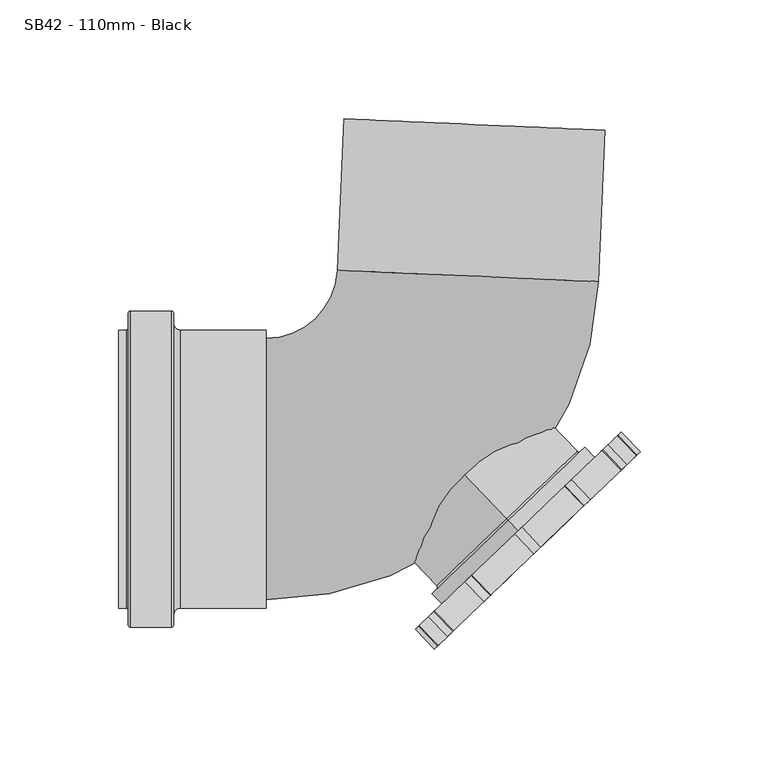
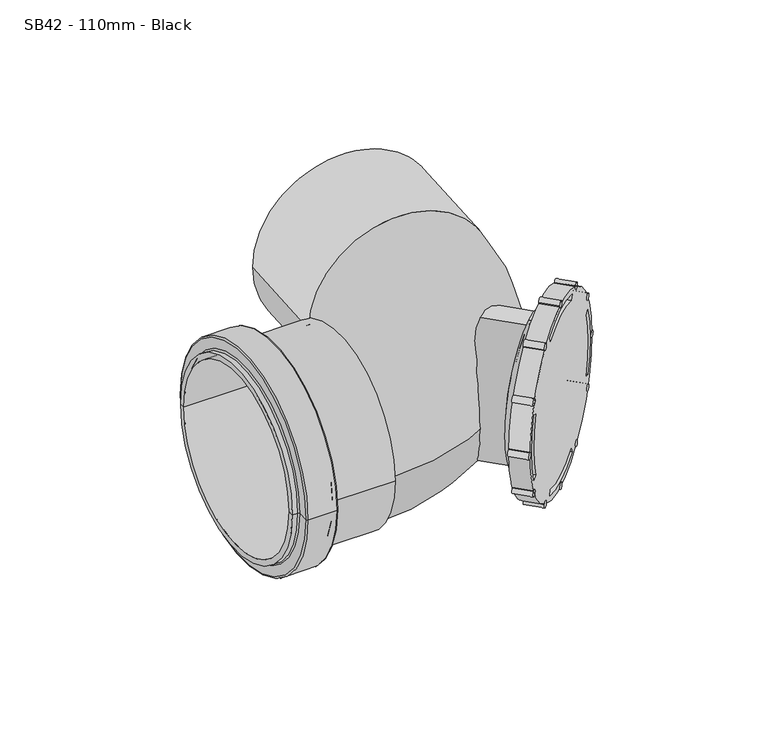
"""IFC4 building model written with IfcOpenShell, lengths in millimetres: pipe fitting geometry, MarleyPlumbingAndDrainage_PipeFitting_RearAccessBend87-5 : SB42 - 110mm - Black."""

from ifc_helpers import new_model, si_unit, point, frame, frame_2d, origin, place, context, project, spatial, polyline, circle_curve, ellipse_curve, trimmed, segment, composite_curve, outline, extrude, source, transform, mapped, element, save
from ifc_brep_helpers import plane_surface, cylinder_surface, revolved_surface, advanced_brep


def sb42_110mm_black_ad8acbd5(model_context):
    return source(origin(), model_context, "Body", "SolidModel", [
        extrude(outline(composite_curve([segment(trimmed(circle_curve(frame_2d((0.0, -2.0)), 2.0), [point((0.0, -4.0))], [point((0.0, 0.0))], False, "CARTESIAN"), True, "CONTINUOUS"), segment(trimmed(circle_curve(frame_2d((0.0, -2.0)), 2.0), [point((0.0, 0.0))], [point((0.0, -4.0))], False, "CARTESIAN"), True, "CONTINUOUS")], self_intersect=False)), frame((68.1693934, 1.235796, 27.2679492), z_axis=(-0.6915130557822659, 0.722363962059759, 0.0), x_axis=(0.6255855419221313, 0.5988678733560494, 0.4999999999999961)), (0.0, 0.0, 1.0), 11.5),
        extrude(outline(composite_curve([segment(trimmed(circle_curve(frame_2d((0.0, -2.0)), 2.0), [point((0.0, -4.0))], [point((0.0, 0.0))], False, "CARTESIAN"), True, "CONTINUOUS"), segment(trimmed(circle_curve(frame_2d((0.0, -2.0)), 2.0), [point((0.0, 0.0))], [point((0.0, -4.0))], False, "CARTESIAN"), True, "CONTINUOUS")], self_intersect=False)), frame((73.0601778, 5.9177035, -2.0), z_axis=(-0.6915130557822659, 0.7223639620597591, 0.0), x_axis=(0.7223639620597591, 0.6915130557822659, 0.0)), (0.0, 0.0, 1.0), 11.5),
        extrude(outline(composite_curve([segment(trimmed(circle_curve(frame_2d((0.0, -2.0)), 2.0), [point((0.0, -4.0))], [point((0.0, 0.0))], False, "CARTESIAN"), True, "CONTINUOUS"), segment(trimmed(circle_curve(frame_2d((0.0, -2.0)), 2.0), [point((0.0, 0.0))], [point((0.0, -4.0))], False, "CARTESIAN"), True, "CONTINUOUS")], self_intersect=False)), frame((66.7246655, -0.1472301, -30.7320508), z_axis=(-0.6915130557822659, 0.7223639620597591, 0.0), x_axis=(0.6255855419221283, 0.5988678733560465, -0.5000000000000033)), (0.0, 0.0, 1.0), 11.5),
        extrude(outline(composite_curve([segment(trimmed(circle_curve(frame_2d((0.0, -2.0)), 2.0), [point((0.0, -4.0))], [point((0.0, 0.0))], False, "CARTESIAN"), True, "CONTINUOUS"), segment(trimmed(circle_curve(frame_2d((0.0, -2.0)), 2.0), [point((0.0, 0.0))], [point((0.0, -4.0))], False, "CARTESIAN"), True, "CONTINUOUS")], self_intersect=False)), frame((50.8604519, -15.3339109, -51.2294734), z_axis=(-0.6915130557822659, 0.7223639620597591, 0.0), x_axis=(0.36118198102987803, 0.3457565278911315, -0.8660254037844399)), (0.0, 0.0, 1.0), 11.5),
        extrude(outline(composite_curve([segment(trimmed(circle_curve(frame_2d((0.0, -2.0)), 2.0), [point((0.0, -4.0000001))], [point((0.0, 0.0))], False, "CARTESIAN"), True, "CONTINUOUS"), segment(trimmed(circle_curve(frame_2d((0.0, -2.0)), 2.0), [point((0.0, 0.0))], [point((0.0, -4.0000001))], False, "CARTESIAN"), True, "CONTINUOUS")], self_intersect=False)), frame((29.7183401, -35.5730799, -58.0), z_axis=(-0.6915130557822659, 0.7223639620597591, 0.0), x_axis=(0.0, 0.0, -1.0)), (0.0, 0.0, 1.0), 11.5),
        extrude(outline(composite_curve([segment(trimmed(circle_curve(frame_2d((0.0, -1.9999999)), 2.0), [point((0.0, -4.0))], [point((0.0, 0.0))], False, "CARTESIAN"), True, "CONTINUOUS"), segment(trimmed(circle_curve(frame_2d((0.0, -1.9999999)), 2.0), [point((0.0, 0.0))], [point((0.0, -4.0))], False, "CARTESIAN"), True, "CONTINUOUS")], self_intersect=False)), frame((8.9633421, -55.4416681, -49.2294734), z_axis=(-0.6915130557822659, 0.722363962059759, 0.0), x_axis=(-0.3611819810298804, -0.34575652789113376, -0.866025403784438)), (0.0, 0.0, 1.0), 11.5),
        extrude(outline(composite_curve([segment(trimmed(circle_curve(frame_2d((-1e-07, -2.0)), 2.0), [point((-1e-07, -4.0))], [point((0.0, 0.0))], False, "CARTESIAN"), True, "CONTINUOUS"), segment(trimmed(circle_curve(frame_2d((-1e-07, -2.0)), 2.0), [point((0.0, 0.0))], [point((-1e-07, -4.0))], False, "CARTESIAN"), True, "CONTINUOUS")], self_intersect=False)), frame((-5.8432574, -69.6159035, -27.2679492), z_axis=(-0.6915130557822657, 0.7223639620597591, 0.0), x_axis=(-0.6255855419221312, -0.5988678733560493, -0.4999999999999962)), (0.0, 0.0, 1.0), 11.5),
        extrude(outline(composite_curve([segment(trimmed(circle_curve(frame_2d((0.0, -2.0)), 2.0), [point((0.0, -4.0))], [point((0.0, 0.0))], False, "CARTESIAN"), True, "CONTINUOUS"), segment(trimmed(circle_curve(frame_2d((0.0, -2.0)), 2.0), [point((0.0, 0.0))], [point((0.0, -4.0))], False, "CARTESIAN"), True, "CONTINUOUS")], self_intersect=False)), frame((-10.7340418, -74.297811, 2.0), z_axis=(-0.6915130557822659, 0.7223639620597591, 0.0), x_axis=(-0.7223639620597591, -0.6915130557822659, 0.0)), (0.0, 0.0, 1.0), 11.5),
        extrude(outline(composite_curve([segment(trimmed(circle_curve(frame_2d((1e-07, -2.0)), 2.0), [point((1e-07, -4.0))], [point((0.0, 0.0))], False, "CARTESIAN"), True, "CONTINUOUS"), segment(trimmed(circle_curve(frame_2d((1e-07, -2.0)), 2.0), [point((0.0, 0.0))], [point((1e-07, -4.0))], False, "CARTESIAN"), True, "CONTINUOUS")], self_intersect=False)), frame((-4.3985294, -68.2328773, 30.7320508), z_axis=(-0.6915130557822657, 0.7223639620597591, 0.0), x_axis=(-0.6255855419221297, -0.5988678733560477, 0.5000000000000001)), (0.0, 0.0, 1.0), 11.5),
        extrude(outline(composite_curve([segment(trimmed(circle_curve(frame_2d((0.0, -2.0)), 2.0), [point((0.0, -4.0))], [point((0.0, 0.0))], False, "CARTESIAN"), True, "CONTINUOUS"), segment(trimmed(circle_curve(frame_2d((0.0, -2.0)), 2.0), [point((0.0, 0.0))], [point((0.0, -4.0))], False, "CARTESIAN"), True, "CONTINUOUS")], self_intersect=False)), frame((11.4656842, -53.0461966, 51.2294734), z_axis=(-0.6915130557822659, 0.722363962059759, 0.0), x_axis=(-0.36118198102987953, -0.3457565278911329, 0.8660254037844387)), (0.0, 0.0, 1.0), 11.5),
        extrude(outline(composite_curve([segment(trimmed(circle_curve(frame_2d((0.0, -2.0)), 2.0), [point((0.0, -4.0))], [point((0.0, 0.0))], False, "CARTESIAN"), True, "CONTINUOUS"), segment(trimmed(circle_curve(frame_2d((0.0, -2.0)), 2.0), [point((0.0, 0.0))], [point((0.0, -4.0))], False, "CARTESIAN"), True, "CONTINUOUS")], self_intersect=False)), frame((53.362794, -12.9384394, 49.2294734), z_axis=(-0.6915130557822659, 0.7223639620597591, 0.0), x_axis=(0.3611819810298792, 0.3457565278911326, 0.8660254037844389)), (0.0, 0.0, 1.0), 11.5),
        extrude(outline(composite_curve([segment(trimmed(circle_curve(frame_2d((0.0, -2.0)), 2.0), [point((0.0, -4.0000001))], [point((0.0, 0.0))], False, "CARTESIAN"), True, "CONTINUOUS"), segment(trimmed(circle_curve(frame_2d((0.0, -2.0)), 2.0), [point((0.0, 0.0))], [point((0.0, -4.0000001))], False, "CARTESIAN"), True, "CONTINUOUS")], self_intersect=False)), frame((32.607796, -32.8070276, 58.0), z_axis=(-0.6915130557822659, 0.7223639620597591, 0.0), x_axis=(0.0, 0.0, 1.0)), (0.0, 0.0, 1.0), 11.5),
        advanced_brep(
        [(-10.7340418, -74.297811, 0.0), (73.0601778, 5.9177035, 0.0), (16.0972668, -48.6124209, -50.3514345), (17.0647953, -47.6862138, -47.1178562), (45.2613408, -20.6938937, -47.1178562), (46.2288693, -19.7676866, -50.3514345), (67.5351298, 0.6286206, -20.8562471), (65.1993093, -1.607441, -19.5168551), (65.1993093, -1.607441, 19.5168551), (67.5351298, 0.6286206, 20.8562471), (-2.8731732, -66.7726664, 19.5168551), (-2.8731732, -66.7726664, -19.5168551), (-5.2089937, -69.0087281, -20.8562471), (-5.2089937, -69.0087281, 20.8562471), (17.0647953, -47.6862138, 47.1178562), (16.0972668, -48.6124209, 50.3514345), (46.2288693, -19.7676866, 50.3514345), (45.2613408, -20.6938937, 47.1178562), (-18.6864419, -65.9906254, 0.0), (65.1077777, 14.2248891, 0.0), (23.2106679, -25.8828682, -44.5), (23.2106679, -25.8828682, 44.5), (12.4270124, -42.8415226, -47.1178562), (11.4594839, -43.7677297, -50.3514345), (41.5910864, -14.9229954, -50.3514345), (40.6235579, -15.8492025, -47.1178562), (60.5615264, 3.2372502, -19.5168551), (62.8973469, 5.4733118, -20.8562471), (62.8973469, 5.4733118, 20.8562471), (60.5615264, 3.2372502, 19.5168551), (-7.5109561, -61.9279752, -19.5168551), (-7.5109561, -61.9279752, 19.5168551), (-9.8467766, -64.1640369, 20.8562471), (-9.8467766, -64.1640369, -20.8562471), (11.4594839, -43.7677297, 50.3514345), (12.4270124, -42.8415226, 47.1178562), (40.6235579, -15.8492025, 47.1178562), (41.5910864, -14.9229954, 50.3514345), (19.0615896, -21.5486844, -44.5), (19.0615896, -21.5486844, 44.5), (19.0615896, -21.5486844, -42.0), (19.0615896, -21.5486844, 42.0), (18.3700765, -20.8263204, -41.0), (18.3700765, -20.8263204, 41.0), (-10.3277153, 9.151784, -41.0), (-10.3277153, 9.151784, 41.0), (-10.3277153, 9.151784, 0.0)],
        [
            (0, 1, circle_curve(frame((31.163068, -34.1900537, 0.0), z_axis=(0.6915130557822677, -0.7223639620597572, 0.0), x_axis=(0.7223639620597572, 0.6915130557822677, 0.0)), 58.0)),
            (1, 0, circle_curve(frame((31.163068, -34.1900537, 0.0), z_axis=(0.6915130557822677, -0.7223639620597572, 0.0), x_axis=(0.7223639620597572, 0.6915130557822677, 0.0)), 58.0)),
            (2, 3),
            (3, 4, circle_curve(frame((31.163068, -34.1900537, 0.0), z_axis=(0.6915130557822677, -0.7223639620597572, 0.0), x_axis=(0.7223639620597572, 0.6915130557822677, 0.0)), 51.0)),
            (4, 5),
            (5, 2, circle_curve(frame((31.163068, -34.1900537, 0.0), z_axis=(-0.6915130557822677, 0.7223639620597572, 0.0), x_axis=(0.7223639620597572, 0.6915130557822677, 0.0)), 54.5)),
            (6, 7),
            (7, 8, circle_curve(frame((31.163068, -34.1900537, 0.0), z_axis=(0.6915130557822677, -0.7223639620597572, 0.0), x_axis=(0.7223639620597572, 0.6915130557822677, 0.0)), 51.0)),
            (8, 9),
            (9, 6, circle_curve(frame((31.163068, -34.1900537, 0.0), z_axis=(-0.6915130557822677, 0.7223639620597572, 0.0), x_axis=(0.7223639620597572, 0.6915130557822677, 0.0)), 54.5)),
            (10, 11, circle_curve(frame((31.163068, -34.1900537, 0.0), z_axis=(0.6915130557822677, -0.7223639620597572, 0.0), x_axis=(0.7223639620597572, 0.6915130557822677, 0.0)), 51.0)),
            (11, 12),
            (12, 13, circle_curve(frame((31.163068, -34.1900537, 0.0), z_axis=(-0.6915130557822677, 0.7223639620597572, 0.0), x_axis=(0.7223639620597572, 0.6915130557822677, 0.0)), 54.5)),
            (13, 10),
            (14, 15),
            (15, 16, circle_curve(frame((31.163068, -34.1900537, 0.0), z_axis=(-0.6915130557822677, 0.7223639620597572, 0.0), x_axis=(0.7223639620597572, 0.6915130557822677, 0.0)), 54.5)),
            (16, 17),
            (17, 14, circle_curve(frame((31.163068, -34.1900537, 0.0), z_axis=(0.6915130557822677, -0.7223639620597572, 0.0), x_axis=(0.7223639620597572, 0.6915130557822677, 0.0)), 51.0)),
            (18, 19, circle_curve(frame((23.2106679, -25.8828682, 0.0), z_axis=(-0.6915130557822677, 0.7223639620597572, 0.0), x_axis=(0.7223639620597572, 0.6915130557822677, 0.0)), 58.0)),
            (19, 18, circle_curve(frame((23.2106679, -25.8828682, 0.0), z_axis=(-0.6915130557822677, 0.7223639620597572, 0.0), x_axis=(0.7223639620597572, 0.6915130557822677, 0.0)), 58.0)),
            (20, 21, circle_curve(frame((23.2106679, -25.8828682, 0.0), z_axis=(0.6915130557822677, -0.7223639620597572, 0.0), x_axis=(0.0, 0.0, 1.0)), 44.5)),
            (21, 20, circle_curve(frame((23.2106679, -25.8828682, 0.0), z_axis=(0.6915130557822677, -0.7223639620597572, 0.0), x_axis=(0.0, 0.0, 1.0)), 44.5)),
            (0, 18),
            (19, 1),
            (22, 23),
            (23, 24, circle_curve(frame((26.5252851, -29.3453625, 0.0), z_axis=(0.6915130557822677, -0.7223639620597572, 0.0), x_axis=(0.7223639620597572, 0.6915130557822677, 0.0)), 54.5)),
            (24, 25),
            (25, 22, circle_curve(frame((26.5252851, -29.3453625, 0.0), z_axis=(-0.6915130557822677, 0.7223639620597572, 0.0), x_axis=(0.7223639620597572, 0.6915130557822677, 0.0)), 51.0)),
            (26, 27),
            (27, 28, circle_curve(frame((26.5252851, -29.3453625, 0.0), z_axis=(0.6915130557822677, -0.7223639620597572, 0.0), x_axis=(0.7223639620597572, 0.6915130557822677, 0.0)), 54.5)),
            (28, 29),
            (29, 26, circle_curve(frame((26.5252851, -29.3453625, 0.0), z_axis=(-0.6915130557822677, 0.7223639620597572, 0.0), x_axis=(0.7223639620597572, 0.6915130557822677, 0.0)), 51.0)),
            (30, 31, circle_curve(frame((26.5252851, -29.3453625, 0.0), z_axis=(-0.6915130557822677, 0.7223639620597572, 0.0), x_axis=(0.7223639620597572, 0.6915130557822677, 0.0)), 51.0)),
            (31, 32),
            (32, 33, circle_curve(frame((26.5252851, -29.3453625, 0.0), z_axis=(0.6915130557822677, -0.7223639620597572, 0.0), x_axis=(0.7223639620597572, 0.6915130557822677, 0.0)), 54.5)),
            (33, 30),
            (34, 35),
            (35, 36, circle_curve(frame((26.5252851, -29.3453625, 0.0), z_axis=(-0.6915130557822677, 0.7223639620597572, 0.0), x_axis=(0.7223639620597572, 0.6915130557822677, 0.0)), 51.0)),
            (36, 37),
            (37, 34, circle_curve(frame((26.5252851, -29.3453625, 0.0), z_axis=(0.6915130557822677, -0.7223639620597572, 0.0), x_axis=(0.7223639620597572, 0.6915130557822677, 0.0)), 54.5)),
            (22, 3),
            (2, 23),
            (5, 24),
            (4, 25),
            (26, 7),
            (6, 27),
            (9, 28),
            (8, 29),
            (30, 11),
            (10, 31),
            (13, 32),
            (12, 33),
            (34, 15),
            (14, 35),
            (17, 36),
            (16, 37),
            (38, 39, circle_curve(frame((19.0615896, -21.5486844, 0.0), z_axis=(0.6915130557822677, -0.7223639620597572, 0.0), x_axis=(0.0, 0.0, 1.0)), 44.5)),
            (39, 21),
            (20, 38),
            (39, 38, circle_curve(frame((19.0615896, -21.5486844, 0.0), z_axis=(0.6915130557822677, -0.7223639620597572, 0.0), x_axis=(0.0, 0.0, 1.0)), 44.5)),
            (38, 40),
            (40, 41, circle_curve(frame((19.0615896, -21.5486844, 0.0), z_axis=(0.6915130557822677, -0.7223639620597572, 0.0), x_axis=(0.0, 0.0, 1.0)), 42.0)),
            (41, 39),
            (41, 40, circle_curve(frame((19.0615896, -21.5486844, 0.0), z_axis=(0.6915130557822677, -0.7223639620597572, 0.0), x_axis=(0.0, 0.0, 1.0)), 42.0)),
            (40, 42, circle_curve(frame((18.3700765, -20.8263204, -42.0), z_axis=(-0.7223639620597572, -0.6915130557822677, 0.0), x_axis=(0.6915130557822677, -0.7223639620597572, 0.0)), 1.0)),
            (42, 43, circle_curve(frame((18.3700765, -20.8263204, 0.0), z_axis=(0.6915130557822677, -0.7223639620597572, 0.0), x_axis=(0.0, 0.0, 1.0)), 41.0)),
            (43, 41, circle_curve(frame((18.3700765, -20.8263204, 42.0), z_axis=(-0.7223639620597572, -0.6915130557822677, 0.0), x_axis=(0.6915130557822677, -0.7223639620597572, 0.0)), 1.0)),
            (43, 42, circle_curve(frame((18.3700765, -20.8263204, 0.0), z_axis=(0.6915130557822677, -0.7223639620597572, 0.0), x_axis=(0.0, 0.0, 1.0)), 41.0)),
            (42, 44),
            (44, 45, circle_curve(frame((-10.3277153, 9.151784, 0.0), z_axis=(0.6915130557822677, -0.7223639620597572, 0.0), x_axis=(0.0, 0.0, 1.0)), 41.0)),
            (45, 43),
            (45, 44, circle_curve(frame((-10.3277153, 9.151784, 0.0), z_axis=(0.6915130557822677, -0.7223639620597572, 0.0), x_axis=(0.0, 0.0, 1.0)), 41.0)),
            (44, 46),
            (46, 45),
        ],
        [
            plane_surface(frame((73.0601778, 5.9177035, 0.0), z_axis=(0.6915130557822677, -0.7223639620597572, 0.0), x_axis=(0.0, 0.0, 1.0))),
            plane_surface(frame((65.1077777, 14.2248891, 0.0), z_axis=(-0.6915130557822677, 0.7223639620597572, 0.0), x_axis=(0.0, 0.0, -1.0))),
            cylinder_surface(frame((23.2106679, -25.8828682, 0.0), z_axis=(0.6915130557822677, -0.7223639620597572, 0.0), x_axis=(0.7223639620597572, 0.6915130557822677, 0.0)), 58.0),
            plane_surface(frame((11.4594839, -43.7677297, -50.3514345), z_axis=(0.6915130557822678, -0.7223639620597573, 0.0), x_axis=(0.2764367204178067, 0.2646305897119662, 0.923879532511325))),
            plane_surface(frame((17.0647953, -47.6862138, -47.1178562), z_axis=(0.667377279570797, 0.6388747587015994, -0.38268343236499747), x_axis=(-0.6915130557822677, 0.7223639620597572, 0.0))),
            revolved_surface(polyline([(70.53190398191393, 3.497407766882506, 0.0), (65.89412103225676, 8.34209904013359, 0.0)]), (26.5252851, -29.3453625, 0.0), (0.6915130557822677, -0.7223639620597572, 0.0)),
            plane_surface(frame((46.2288693, -19.7676866, -50.3514345), z_axis=(-0.6673772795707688, -0.6388747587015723, -0.38268343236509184), x_axis=(-0.6915130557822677, 0.7223639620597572, 0.0))),
            cylinder_surface(frame((26.5252851, -29.3453625, 0.0), z_axis=(-0.6915130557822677, 0.7223639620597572, 0.0), x_axis=(0.7223639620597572, 0.6915130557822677, 0.0)), 51.0),
            plane_surface(frame((65.1993093, -1.607441, -19.5168551), z_axis=(0.2764367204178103, 0.2646305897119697, 0.9238795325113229), x_axis=(-0.6915130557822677, 0.7223639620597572, 0.0))),
            revolved_surface(polyline([(70.5319039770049, 3.4974077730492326, 0.0), (65.89412103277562, 8.342099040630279, 0.0)]), (23.2106679, -25.8828682, 0.0), (0.6915130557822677, -0.7223639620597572, 0.0)),
            plane_surface(frame((67.5351298, 0.6286206, 20.8562471), z_axis=(0.2764367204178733, 0.26463058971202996, -0.923879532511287), x_axis=(-0.6915130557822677, 0.7223639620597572, 0.0))),
            cylinder_surface(frame((23.2106679, -25.8828682, 0.0), z_axis=(-0.6915130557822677, 0.7223639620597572, 0.0), x_axis=(0.7223639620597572, 0.6915130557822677, 0.0)), 51.0),
            plane_surface(frame((-2.8731732, -66.7726664, 19.5168551), z_axis=(-0.2764367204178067, -0.2646305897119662, -0.923879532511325), x_axis=(-0.6915130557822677, 0.7223639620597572, 0.0))),
            revolved_surface(polyline([(70.53190396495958, 3.4974077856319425, 0.0), (65.89412103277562, 8.342099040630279, 0.0)]), (23.2106679, -25.8828682, 0.0), (0.6915130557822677, -0.7223639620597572, 0.0)),
            plane_surface(frame((-5.2089937, -69.0087281, -20.8562471), z_axis=(-0.2764367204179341, -0.2646305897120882, 0.9238795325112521), x_axis=(-0.6915130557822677, 0.7223639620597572, 0.0))),
            plane_surface(frame((16.0972668, -48.6124209, 50.3514345), z_axis=(0.6673772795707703, 0.6388747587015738, 0.38268343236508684), x_axis=(-0.6915130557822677, 0.7223639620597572, 0.0))),
            plane_surface(frame((45.2613408, -20.6938937, 47.1178562), z_axis=(-0.6673772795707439, -0.6388747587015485, 0.382683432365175), x_axis=(-0.6915130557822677, 0.7223639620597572, 0.0))),
            revolved_surface(polyline([(70.53190398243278, 3.4974077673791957, 0.0), (65.89412103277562, 8.342099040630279, 0.0)]), (23.2106679, -25.8828682, 0.0), (0.6915130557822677, -0.7223639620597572, 0.0)),
            cylinder_surface(frame((-811.3378153, 845.8978507, 0.0), z_axis=(-0.6915130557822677, 0.7223639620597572, 0.0), x_axis=(0.0, 0.0, 1.0)), 44.5),
            plane_surface(frame((19.0615896, -21.5486844, 0.0), z_axis=(-0.6915130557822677, 0.7223639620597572, 0.0), x_axis=(0.0, 0.0, 1.0))),
            revolved_surface(trimmed(ellipse_curve(frame((18.3700765, -20.8263204, 42.0), z_axis=(0.7223639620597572, 0.6915130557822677, 0.0), x_axis=(0.6915130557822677, -0.7223639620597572, 0.0)), 1.0, 1.0), [point((19.0615896, -21.5486844, 42.0))], [point((18.3700765, -20.8263204, 41.0))], True, "CARTESIAN"), (-811.3378153, 845.8978507, 0.0), (-0.6915130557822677, 0.7223639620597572, 0.0)),
            cylinder_surface(frame((-811.3378153, 845.8978507, 0.0), z_axis=(-0.6915130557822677, 0.7223639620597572, 0.0), x_axis=(0.0, 0.0, 1.0)), 41.0),
            plane_surface(frame((-10.3277153, 9.151784, 0.0), z_axis=(-0.6915130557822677, 0.7223639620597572, 0.0), x_axis=(0.0, 0.0, 1.0))),
        ],
        [
            (0, [[1, 2], [3, 4, 5, 6], [7, 8, 9, 10], [11, 12, 13, 14], [15, 16, 17, 18]]),
            (1, [[19, 20], [21, 22]]),
            (2, [[-1, 23, -20, 24]]),
            (2, [[-2, -24, -19, -23]]),
            (3, [[25, 26, 27, 28]]),
            (3, [[29, 30, 31, 32]]),
            (3, [[33, 34, 35, 36]]),
            (3, [[37, 38, 39, 40]]),
            (4, [[-25, 41, -3, 42]]),
            (5, [[-26, -42, -6, 43]]),
            (6, [[-27, -43, -5, 44]]),
            (7, [[-28, -44, -4, -41]]),
            (8, [[-29, 45, -7, 46]]),
            (9, [[-30, -46, -10, 47]]),
            (10, [[-31, -47, -9, 48]]),
            (11, [[-32, -48, -8, -45]]),
            (11, [[-33, 49, -11, 50]]),
            (12, [[-34, -50, -14, 51]]),
            (13, [[-35, -51, -13, 52]]),
            (14, [[-36, -52, -12, -49]]),
            (15, [[-37, 53, -15, 54]]),
            (11, [[-38, -54, -18, 55]]),
            (16, [[-39, -55, -17, 56]]),
            (17, [[-40, -56, -16, -53]]),
            (18, [[57, 58, -21, 59]]),
            (18, [[-58, 60, -59, -22]]),
            (19, [[-57, 61, 62, 63]]),
            (19, [[-60, -63, 64, -61]]),
            (20, [[-62, 65, 66, 67]]),
            (20, [[-64, -67, 68, -65]]),
            (21, [[-66, 69, 70, 71]]),
            (21, [[-68, -71, 72, -69]]),
            (22, [[-70, 73, 74]]),
            (22, [[-72, -74, -73]]),
        ],
    ),
        advanced_brep(
        [(-140.9365862, -65.5, -0.1429746), (-140.9365862, 65.5, -0.1429746), (-140.9365862, 59.5, -0.1429746), (-140.9365862, -59.5, -0.1429746), (-122.9365862, -66.5, -0.1429746), (-122.9365862, 66.5, -0.1429746), (-139.9365862, 66.5, -0.1429746), (-139.9365862, -66.5, -0.1429746), (-121.9365862, -61.5, -0.1429746), (-121.9365862, 61.5, -0.1429746), (-121.9365862, 65.5, -0.1429746), (-121.9365862, -65.5, -0.1429746), (-82.9365862, -58.5, -0.1429746), (-82.9365862, 58.5, -0.1429746), (-118.9365862, 58.5, -0.1429746), (-118.9365862, -58.5, -0.1429746), (-82.9365862, -55.0, -0.1429746), (-82.9365862, 55.0, -0.1429746), (-144.9365862, -55.0, -0.1429746), (-144.9365862, 55.0, -0.1429746), (-144.9365862, -58.5, -0.1429746), (-144.9365862, 58.5, -0.1429746), (-141.9365862, -58.5, -0.1429746), (-141.9365862, 58.5, -0.1429746)],
        [
            (0, 1, circle_curve(frame((-140.9365862, 0.0, -0.1429746), z_axis=(-1.0, 0.0, 0.0), x_axis=(0.0, 1.0, 0.0)), 65.5)),
            (1, 2),
            (2, 3, circle_curve(frame((-140.9365862, 0.0, -0.1429746), z_axis=(1.0, 0.0, 0.0), x_axis=(0.0, 1.0, 0.0)), 59.5)),
            (3, 0),
            (1, 0, circle_curve(frame((-140.9365862, 0.0, -0.1429746), z_axis=(-1.0, 0.0, 0.0), x_axis=(0.0, 1.0, 0.0)), 65.5)),
            (3, 2, circle_curve(frame((-140.9365862, 0.0, -0.1429746), z_axis=(1.0, 0.0, 0.0), x_axis=(0.0, 1.0, 0.0)), 59.5)),
            (4, 5, circle_curve(frame((-122.9365862, 0.0, -0.1429746), z_axis=(-1.0, 0.0, 0.0), x_axis=(0.0, 1.0, 0.0)), 66.5)),
            (5, 6),
            (6, 7, circle_curve(frame((-139.9365862, 0.0, -0.1429746), z_axis=(1.0, 0.0, 0.0), x_axis=(0.0, 1.0, 0.0)), 66.5)),
            (7, 4),
            (5, 4, circle_curve(frame((-122.9365862, 0.0, -0.1429746), z_axis=(-1.0, 0.0, 0.0), x_axis=(0.0, 1.0, 0.0)), 66.5)),
            (7, 6, circle_curve(frame((-139.9365862, 0.0, -0.1429746), z_axis=(1.0, 0.0, 0.0), x_axis=(0.0, 1.0, 0.0)), 66.5)),
            (8, 9, circle_curve(frame((-121.9365862, 0.0, -0.1429746), z_axis=(-1.0, 0.0, 0.0), x_axis=(0.0, 1.0, 0.0)), 61.5)),
            (9, 10),
            (10, 11, circle_curve(frame((-121.9365862, 0.0, -0.1429746), z_axis=(1.0, 0.0, 0.0), x_axis=(0.0, 1.0, 0.0)), 65.5)),
            (11, 8),
            (9, 8, circle_curve(frame((-121.9365862, 0.0, -0.1429746), z_axis=(-1.0, 0.0, 0.0), x_axis=(0.0, 1.0, 0.0)), 61.5)),
            (11, 10, circle_curve(frame((-121.9365862, 0.0, -0.1429746), z_axis=(1.0, 0.0, 0.0), x_axis=(0.0, 1.0, 0.0)), 65.5)),
            (12, 13, circle_curve(frame((-82.9365862, 0.0, -0.1429746), z_axis=(-1.0, 0.0, 0.0), x_axis=(0.0, 1.0, 0.0)), 58.5)),
            (13, 14),
            (14, 15, circle_curve(frame((-118.9365862, 0.0, -0.1429746), z_axis=(1.0, 0.0, 0.0), x_axis=(0.0, 1.0, 0.0)), 58.5)),
            (15, 12),
            (13, 12, circle_curve(frame((-82.9365862, 0.0, -0.1429746), z_axis=(-1.0, 0.0, 0.0), x_axis=(0.0, 1.0, 0.0)), 58.5)),
            (15, 14, circle_curve(frame((-118.9365862, 0.0, -0.1429746), z_axis=(1.0, 0.0, 0.0), x_axis=(0.0, 1.0, 0.0)), 58.5)),
            (16, 17, circle_curve(frame((-82.9365862, 0.0, -0.1429746), z_axis=(-1.0, 0.0, 0.0), x_axis=(0.0, 1.0, 0.0)), 55.0)),
            (17, 13),
            (12, 16),
            (17, 16, circle_curve(frame((-82.9365862, 0.0, -0.1429746), z_axis=(-1.0, 0.0, 0.0), x_axis=(0.0, 1.0, 0.0)), 55.0)),
            (18, 19, circle_curve(frame((-144.9365862, 0.0, -0.1429746), z_axis=(-1.0, 0.0, 0.0), x_axis=(0.0, 1.0, 0.0)), 55.0)),
            (19, 17),
            (16, 18),
            (19, 18, circle_curve(frame((-144.9365862, 0.0, -0.1429746), z_axis=(-1.0, 0.0, 0.0), x_axis=(0.0, 1.0, 0.0)), 55.0)),
            (20, 21, circle_curve(frame((-144.9365862, 0.0, -0.1429746), z_axis=(-1.0, 0.0, 0.0), x_axis=(0.0, 1.0, 0.0)), 58.5)),
            (21, 19),
            (18, 20),
            (21, 20, circle_curve(frame((-144.9365862, 0.0, -0.1429746), z_axis=(-1.0, 0.0, 0.0), x_axis=(0.0, 1.0, 0.0)), 58.5)),
            (22, 23, circle_curve(frame((-141.9365862, 0.0, -0.1429746), z_axis=(-1.0, 0.0, 0.0), x_axis=(0.0, 1.0, 0.0)), 58.5)),
            (23, 21),
            (20, 22),
            (23, 22, circle_curve(frame((-141.9365862, 0.0, -0.1429746), z_axis=(-1.0, 0.0, 0.0), x_axis=(0.0, 1.0, 0.0)), 58.5)),
            (2, 23, circle_curve(frame((-141.9365862, 59.5, -0.1429746), z_axis=(0.0, 0.0, -1.0), x_axis=(0.0, -1.0, 0.0)), 1.0)),
            (22, 3, circle_curve(frame((-141.9365862, -59.5, -0.1429746), z_axis=(0.0, 0.0, -1.0), x_axis=(0.0, 1.0, 0.0)), 1.0)),
            (6, 1, circle_curve(frame((-139.9365862, 65.5, -0.1429746), z_axis=(0.0, 0.0, 1.0), x_axis=(0.0, -1.0, 0.0)), 1.0)),
            (0, 7, circle_curve(frame((-139.9365862, -65.5, -0.1429746), z_axis=(0.0, 0.0, 1.0), x_axis=(0.0, 1.0, 0.0)), 1.0)),
            (10, 5, circle_curve(frame((-122.9365862, 65.5, -0.1429746), z_axis=(0.0, 0.0, 1.0), x_axis=(0.0, -1.0, 0.0)), 1.0)),
            (4, 11, circle_curve(frame((-122.9365862, -65.5, -0.1429746), z_axis=(0.0, 0.0, 1.0), x_axis=(0.0, 1.0, 0.0)), 1.0)),
            (14, 9, circle_curve(frame((-118.9365862, 61.5, -0.1429746), z_axis=(0.0, 0.0, -1.0), x_axis=(0.0, -1.0, 0.0)), 3.0)),
            (8, 15, circle_curve(frame((-118.9365862, -61.5, -0.1429746), z_axis=(0.0, 0.0, -1.0), x_axis=(0.0, 1.0, 0.0)), 3.0)),
        ],
        [
            plane_surface(frame((-140.9365862, 0.0, -0.1429746), z_axis=(-1.0, 0.0, 0.0), x_axis=(0.0, 1.0, 0.0))),
            cylinder_surface(frame((-1978.6703566, 0.0, -0.1429746), z_axis=(1.0, 0.0, 0.0), x_axis=(0.0, 1.0, 0.0)), 66.5),
            plane_surface(frame((-121.9365862, 0.0, -0.1429746), z_axis=(1.0, 0.0, 0.0), x_axis=(0.0, 1.0, 0.0))),
            cylinder_surface(frame((-1978.6703566, 0.0, -0.1429746), z_axis=(1.0, 0.0, 0.0), x_axis=(0.0, 1.0, 0.0)), 58.5),
            plane_surface(frame((-82.9365862, 0.0, -0.1429746), z_axis=(1.0, 0.0, 0.0), x_axis=(0.0, 1.0, 0.0))),
            revolved_surface(polyline([(-82.93658619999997, 55.0, -0.1429746), (-144.93658619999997, 55.0, -0.1429746)]), (-1978.6703566, 0.0, -0.1429746), (1.0, 0.0, 0.0)),
            plane_surface(frame((-144.9365862, 0.0, -0.1429746), z_axis=(-1.0, 0.0, 0.0), x_axis=(0.0, 1.0, 0.0))),
            revolved_surface(trimmed(ellipse_curve(frame((-141.9365862, 59.5, -0.1429746), z_axis=(0.0, 0.0, 1.0), x_axis=(0.0, -1.0, 0.0)), 1.0, 1.0), [point((-141.9365862, 58.5, -0.1429746))], [point((-140.9365862, 59.5, -0.1429746))], True, "CARTESIAN"), (-1978.6703566, 0.0, -0.1429746), (1.0, 0.0, 0.0)),
            revolved_surface(trimmed(ellipse_curve(frame((-139.9365862, 65.5, -0.1429746), z_axis=(0.0, 0.0, -1.0), x_axis=(0.0, -1.0, 0.0)), 1.0, 1.0), [point((-140.9365862, 65.5, -0.1429746))], [point((-139.9365862, 66.5, -0.1429746))], True, "CARTESIAN"), (-1978.6703566, 0.0, -0.1429746), (1.0, 0.0, 0.0)),
            revolved_surface(trimmed(ellipse_curve(frame((-122.9365862, 65.5, -0.1429746), z_axis=(0.0, 0.0, -1.0), x_axis=(0.0, -1.0, 0.0)), 1.0, 1.0), [point((-122.9365862, 66.5, -0.1429746))], [point((-121.9365862, 65.5, -0.1429746))], True, "CARTESIAN"), (-1978.6703566, 0.0, -0.1429746), (1.0, 0.0, 0.0)),
            revolved_surface(trimmed(ellipse_curve(frame((-118.9365862, 61.5, -0.1429746), z_axis=(0.0, 0.0, 1.0), x_axis=(0.0, -1.0, 0.0)), 3.0, 3.0), [point((-121.9365862, 61.5, -0.1429746))], [point((-118.9365862, 58.5, -0.1429746))], True, "CARTESIAN"), (-1978.6703566, 0.0, -0.1429746), (1.0, 0.0, 0.0)),
        ],
        [
            (0, [[1, 2, 3, 4]]),
            (0, [[5, -4, 6, -2]]),
            (1, [[7, 8, 9, 10]]),
            (1, [[11, -10, 12, -8]]),
            (2, [[13, 14, 15, 16]]),
            (2, [[17, -16, 18, -14]]),
            (3, [[19, 20, 21, 22]]),
            (3, [[23, -22, 24, -20]]),
            (4, [[25, 26, -19, 27]]),
            (4, [[28, -27, -23, -26]]),
            (5, [[29, 30, -25, 31]]),
            (5, [[32, -31, -28, -30]]),
            (6, [[33, 34, -29, 35]]),
            (6, [[36, -35, -32, -34]]),
            (3, [[37, 38, -33, 39]]),
            (3, [[40, -39, -36, -38]]),
            (7, [[-3, 41, -37, 42]]),
            (7, [[-6, -42, -40, -41]]),
            (8, [[-9, 43, -1, 44]]),
            (8, [[-12, -44, -5, -43]]),
            (9, [[-15, 45, -7, 46]]),
            (9, [[-18, -46, -11, -45]]),
            (10, [[-21, 47, -13, 48]]),
            (10, [[-24, -48, -17, -47]]),
        ],
    ),
        advanced_brep(
        [(-82.9365862, -55.0, 0.0), (-82.9365862, 55.0, 0.0), (-52.9651395, 83.6914184, 0.0), (56.9301649, 78.8932858, 0.0), (59.7087198, 142.5326575, 0.0), (-50.1865845, 147.3307901, 0.0)],
        [
            (0, 1, circle_curve(frame((-82.9365862, 0.0, 0.0), z_axis=(-1.0, 0.0, 0.0), x_axis=(0.0, 1.0, 0.0)), 55.0)),
            (1, 0, circle_curve(frame((-82.9365862, 0.0, 0.0), z_axis=(-1.0, 0.0, 0.0), x_axis=(0.0, 1.0, 0.0)), 55.0)),
            (2, 1, circle_curve(frame((-82.9365862, 85.0, 0.0), z_axis=(0.0, 0.0, -1.0), x_axis=(0.0, -1.0, 0.0)), 30.0)),
            (0, 3, circle_curve(frame((-82.9365862, 85.0, 0.0), z_axis=(0.0, 0.0, 1.0), x_axis=(0.0, -1.0, 0.0)), 140.0)),
            (3, 2, circle_curve(frame((1.9825127, 81.2923521, 0.0), z_axis=(-0.0436193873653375, -0.9990482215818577, 0.0), x_axis=(-0.9990482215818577, 0.0436193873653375, 0.0)), 55.0)),
            (2, 3, circle_curve(frame((1.9825127, 81.2923521, 0.0), z_axis=(-0.0436193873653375, -0.9990482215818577, 0.0), x_axis=(-0.9990482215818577, 0.0436193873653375, 0.0)), 55.0)),
            (4, 5, circle_curve(frame((4.7610676, 144.9317238, 0.0), z_axis=(0.04361938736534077, 0.9990482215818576, 0.0), x_axis=(-0.9990482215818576, 0.04361938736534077, 0.0)), 55.0)),
            (5, 4, circle_curve(frame((4.7610676, 144.9317238, 0.0), z_axis=(0.04361938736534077, 0.9990482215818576, 0.0), x_axis=(-0.9990482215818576, 0.04361938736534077, 0.0)), 55.0)),
            (3, 4),
            (5, 2),
        ],
        [
            plane_surface(frame((-82.9365862, 0.0, 0.0), z_axis=(-1.0, 0.0, 0.0), x_axis=(0.0, 0.0, 1.0))),
            revolved_surface(trimmed(ellipse_curve(frame((-82.9365862, 0.0, 0.0), z_axis=(-1.0, 0.0, 0.0), x_axis=(0.0, 1.0, 0.0)), 55.0, 55.0), [point((-82.9365862, -55.0, 0.0))], [point((-82.9365862, 55.0, 0.0))], True, "CARTESIAN"), (-82.9365862, 85.0, 0.0), (0.0, 0.0, 1.0)),
            revolved_surface(trimmed(ellipse_curve(frame((-82.9365862, 0.0, 0.0), z_axis=(-1.0, 0.0, 0.0), x_axis=(0.0, 1.0, 0.0)), 55.0, 55.0), [point((-82.9365862, 55.0, 0.0))], [point((-82.9365862, -55.0, 0.0))], True, "CARTESIAN"), (-82.9365862, 85.0, 0.0), (0.0, 0.0, 1.0)),
            plane_surface(frame((4.7610676, 144.9317238, 0.0), z_axis=(0.04361938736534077, 0.9990482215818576, 0.0), x_axis=(0.0, 0.0, 1.0))),
            cylinder_surface(frame((1.9825127, 81.2923521, 0.0), z_axis=(-0.04361938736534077, -0.9990482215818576, 0.0), x_axis=(-0.9990482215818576, 0.04361938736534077, 0.0)), 55.0),
        ],
        [
            (0, [[1, 2]]),
            (1, [[3, -1, 4, 5]]),
            (2, [[-4, -2, -3, 6]]),
            (3, [[7, 8]]),
            (4, [[-5, 9, -8, 10]]),
            (4, [[-6, -10, -7, -9]]),
        ],
    ),
    ])


if __name__ == "__main__":
    model = new_model("IFC4")
    model_context = context("Model", 3, world=origin())
    ifc_project = project(units=[si_unit("LENGTHUNIT", "METRE", prefix="MILLI")], contexts=[model_context])
    site = spatial("IfcSite", under=ifc_project)
    building = spatial("IfcBuilding", under=site)
    placement = place(None, origin())
    sb42_110mm_black_shape = sb42_110mm_black_ad8acbd5(model_context)
    element("IfcPipeFitting", 1, ObjectType="MarleyPlumbingAndDrainage_PipeFitting_RearAccessBend87-5 : SB42 - 110mm - Black", at=placement, inside=building, context=model_context, shape_type="MappedRepresentation", body=[
        mapped(sb42_110mm_black_shape, transform((0.0, 0.0, 0.0), x_axis=(1.0, 0.0, 0.0), y_axis=(0.0, 1.0, 0.0), z_axis=(0.0, 0.0, 1.0))),
    ])
    save(model, "model.ifc")
